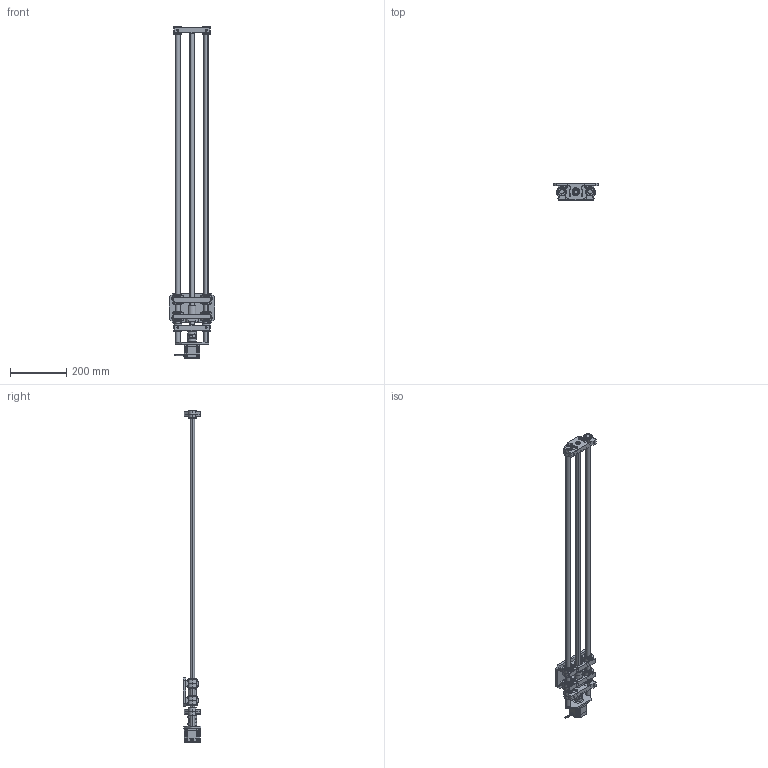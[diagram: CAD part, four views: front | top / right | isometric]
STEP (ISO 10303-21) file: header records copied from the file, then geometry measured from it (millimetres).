
FILE_DESCRIPTION (( 'STEP AP203' ), '1' );
FILE_NAME ('MAF-1610 X 900 - HT23.STEP', '2026-10-02T16:31:32', ( '' ), ( '' ), 'SwSTEP 2.0', 'SolidWorks 2019', '' );
FILE_SCHEMA (( 'CONFIG_CONTROL_DESIGN' ));
Length unit declared in the file: millimetre
Products named in the file (25): 03; MOTOR HT23397; LM16UU; ADS-10; ACOPLAMENTO ADS-10.STEP; MAF-1610 X 900 - HT23; lm16uu.STEP; LM16UU.STEP; CORPO ADS 10.STEP; 02; Pe蓷2; DIN 912_M3x12.STEP; 04; Pe蓷19; 01; radial ball bearing_68_din_DIN 625 - 6001 - 10,SI,NC,10_68; Pe蓷3; ELAST_MERO_ADS 10.STEP; SFNU1605; FLANGE
Assembly tree (31 placements, depth 4):
  MAF-1610 X 900 - HT23
    01
    02
    03
    04
    SFNU1605
    LM16UU
      LM16UU.STEP
        lm16uu.STEP
    LM16UU
      LM16UU.STEP
        lm16uu.STEP
    LM16UU.STEP
      lm16uu.STEP
    LM16UU
      LM16UU.STEP
        lm16uu.STEP
    Pe蓷19  x2
    ADS-10
      ACOPLAMENTO ADS-10.STEP
        CORPO ADS 10.STEP  x2
        ELAST_MERO_ADS 10.STEP
        DIN 912_M3x12.STEP  x2
    FLANGE
    Pe蓷2
    radial ball bearing_68_din_DIN 625 - 6001 - 10,SI,NC,10_68  x2
    Pe蓷3
    MOTOR HT23397
Bounding box: 160 x 62 x 1175.6 mm (x, y, z)
Volume: 1386113.3 mm3; surface area: 398025.3 mm2
Topology: 24 solids, 24 shells, 3069 faces, 7700 edges, 4640 vertices
Faces by surface type: plane 1106, cylinder 812, bspline 464, torus 378, cone 161, sphere 148
Entity records: 81231 total; most frequent: CARTESIAN_POINT 24666, DIRECTION 11361, ORIENTED_EDGE 11248, EDGE_CURVE 5624, AXIS2_PLACEMENT_3D 4441, VERTEX_POINT 3401, EDGE_LOOP 2545, LINE 2479
